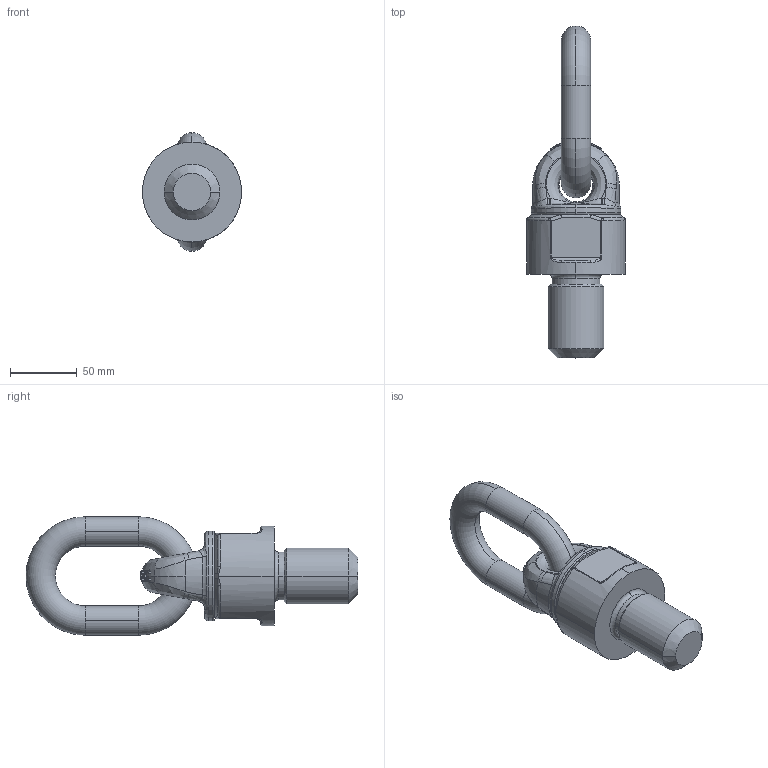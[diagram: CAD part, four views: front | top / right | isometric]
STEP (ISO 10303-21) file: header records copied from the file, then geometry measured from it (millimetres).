
FILE_DESCRIPTION(('STEP AP214'),'1');
FILE_NAME('c8001004263.stp','2017-03-22T14:25:14',('TraceParts'),('TraceParts S.A.'),'Spatial InterOp 3D',' ',' ');
FILE_SCHEMA(('automotive_design'));
Length unit declared in the file: millimetre
Products named in the file (3): c8001004263_1; c8001004263_2; c8001004263_3
Bounding box: 74.36 x 249.4 x 89 mm (x, y, z)
Volume: 459685.7 mm3; surface area: 61880.4 mm2
Topology: 3 solids, 3 shells, 263 faces, 749 edges, 482 vertices
Faces by surface type: bspline 130, plane 63, cone 34, cylinder 20, torus 12, sphere 4
Entity records: 20876 total; most frequent: CARTESIAN_POINT 12676, ORIENTED_EDGE 1480, DIRECTION 1019, EDGE_CURVE 740, VERTEX_POINT 482, AXIS2_PLACEMENT_3D 429, B_SPLINE_CURVE_WITH_KNOTS 267, STYLED_ITEM 266
